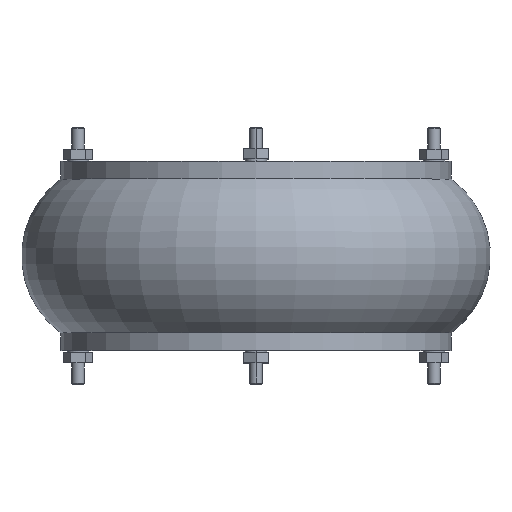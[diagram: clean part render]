
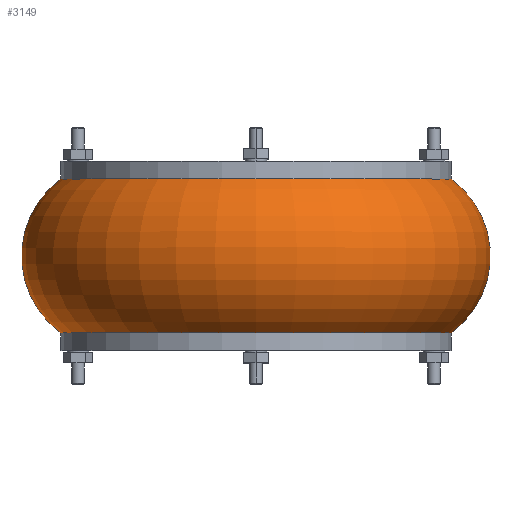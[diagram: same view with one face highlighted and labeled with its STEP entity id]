
A CAD part, top view. The second image highlights one B-rep face of the part: STEP entity #3149.
In plain terms, the highlighted toroidal (fillet/blend) face has major radius 110.484 mm and minor radius 75.516 mm.
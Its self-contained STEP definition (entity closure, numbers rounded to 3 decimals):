
#291=CARTESIAN_POINT('',(0.,-61.,0.));
#292=DIRECTION('',(0.,-1.,0.));
#293=DIRECTION('',(1.,0.,0.));
#294=AXIS2_PLACEMENT_3D('',#291,#292,#293);
#299=CARTESIAN_POINT('',(0.,61.,0.));
#300=DIRECTION('',(0.,-1.,0.));
#301=DIRECTION('',(1.,0.,0.));
#302=AXIS2_PLACEMENT_3D('',#299,#300,#301);
#307=CARTESIAN_POINT('',(110.484,0.,0.));
#308=DIRECTION('',(0.,0.,1.));
#309=DIRECTION('',(0.589,-0.808,0.));
#310=AXIS2_PLACEMENT_3D('',#307,#308,#309);
#323=CARTESIAN_POINT('',(-110.484,0.,
0.));
#324=DIRECTION('',(0.,0.,-1.));
#325=DIRECTION('',(-0.589,-0.808,0.));
#326=AXIS2_PLACEMENT_3D('',#323,#324,#325);
#2351=CARTESIAN_POINT('',(155.,61.,0.));
#2352=VERTEX_POINT('',#2351);
#2353=CARTESIAN_POINT('',(155.,-61.,0.));
#2354=VERTEX_POINT('',#2353);
#2355=CARTESIAN_POINT('',(-155.,61.,0.));
#2356=VERTEX_POINT('',#2355);
#2357=CARTESIAN_POINT('',(-155.,-61.,0.));
#2358=VERTEX_POINT('',#2357);
#3135=CARTESIAN_POINT('',(0.,0.,0.));
#3136=DIRECTION('',(0.,-1.,0.));
#3137=DIRECTION('',(-1.,0.,0.));
#3138=AXIS2_PLACEMENT_3D('',#3135,#3136,#3137);
#3139=TOROIDAL_SURFACE('',#3138,110.484,75.516);
#3141=ORIENTED_EDGE('',*,*,#3140,.F.);
#3143=ORIENTED_EDGE('',*,*,#3142,.T.);
#3145=ORIENTED_EDGE('',*,*,#3144,.T.);
#3146=ORIENTED_EDGE('',*,*,#3116,.F.);
#3147=EDGE_LOOP('',(#3141,#3143,#3145,#3146));
#3148=FACE_OUTER_BOUND('',#3147,.F.);
#3149=ADVANCED_FACE('',(#3148),#3139,.T.);
#295=CIRCLE('',#294,155.);
#303=CIRCLE('',#302,155.);
#311=CIRCLE('',#310,75.516);
#327=CIRCLE('',#326,75.516);
#3116=EDGE_CURVE('',#2352,#2356,#303,.T.);
#3140=EDGE_CURVE('',#2354,#2352,#311,.T.);
#3142=EDGE_CURVE('',#2354,#2358,#295,.T.);
#3144=EDGE_CURVE('',#2358,#2356,#327,.T.);
